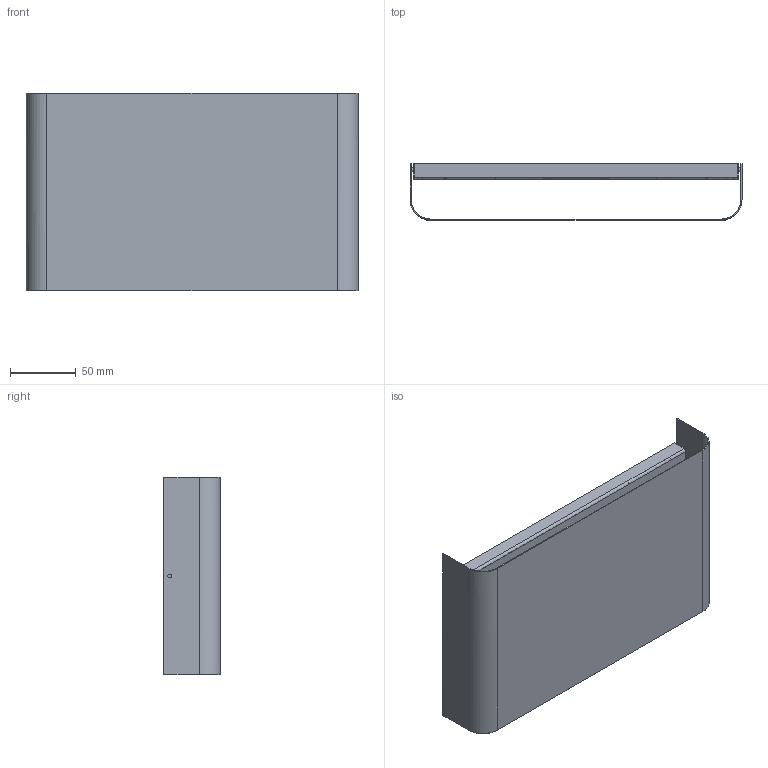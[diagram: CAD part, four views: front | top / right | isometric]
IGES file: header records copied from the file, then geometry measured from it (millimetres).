
Start section: SolidWorks IGES file using NURBS representation for surfaces
Global section: file name: Z:\Modele 3D_WWW\_KOLEKCJE_WWW\HAGA-9708-9710\HAGA-9708-9710.IGS; native system: SolidWorks 2021; preprocessor: SolidWorks 2021; author: gabriela.tworek; date: 211221.144921; units: millimetre
Bounding box: 251.6 x 42.8 x 150 mm (x, y, z)
Surface area: 166204.7 mm2 (no closed solid volume)
Topology: 0 solids, 0 shells, 82 faces, 426 edges, 424 vertices
Faces by surface type: bspline 82
